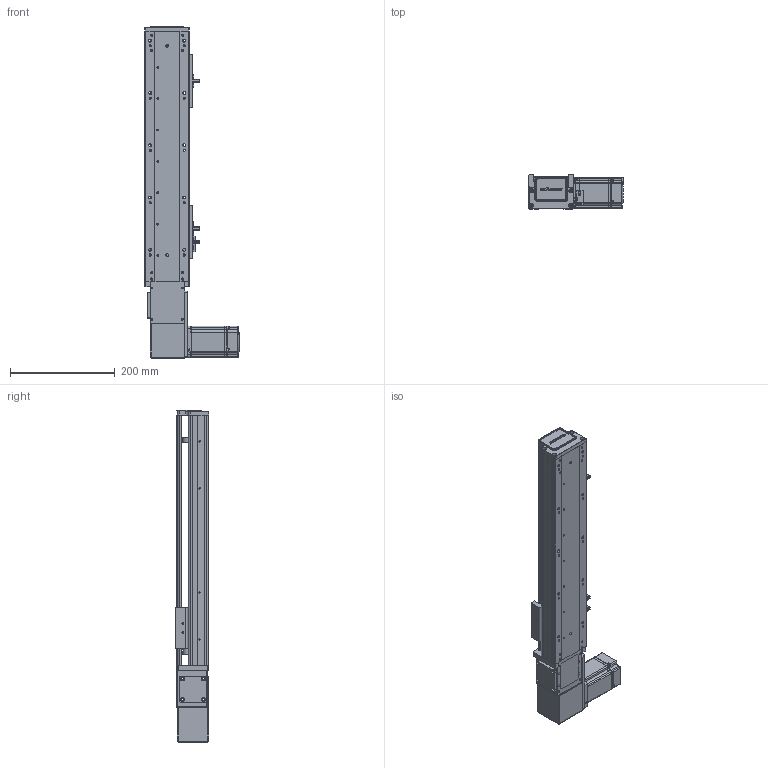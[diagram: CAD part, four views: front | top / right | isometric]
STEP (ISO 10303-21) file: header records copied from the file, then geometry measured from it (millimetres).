
FILE_DESCRIPTION (( 'STEP AP203' ), '1' );
FILE_NAME ('RY80-T-300-RK.SLDASM_300.step', '2021-03-01T02:06:04', ( '盈信电脑' ), ( '东莞市道滘镇水果街19号' ), 'SwSTEP 2.0', 'SolidWorks 2012', '' );
FILE_SCHEMA (( 'CONFIG_CONTROL_DESIGN' ));
Products named in the file (20): RY100-T粣創揤踡裔; RY80-T-300-RK.SLDASM_300; RY80-T翋肮祭謫裔啣; RY80-T肮祭謫俋欶; RY80-T-M4蹟翐; 滅袉蝶18-10; RY80-T肮祭湍揤輸1; RY80-T粣創揤踡輸; RY80-T萇儂假蚾啣; RY80-T肮祭湍揤輸2; 侂狟200W萇儂; RY80-T-翋肮祭謫釱; 1; RY80-T綴裔啣; 672嫖萇羲壽假蚾釱; RY80俋离覜茼え; 覜茼ん672; RY80-T-300-RK倰第奻裔啣; RY80-T-300-RK倰第菁釱; RY80-T肮祭謫臏賑輸
Assembly tree (25 placements, depth 3):
  RY80-T-300-RK.SLDASM_300
    RY80-T-300-RK倰第菁釱
    RY80-T肮祭謫臏賑輸
    RY80-T-300-RK倰第奻裔啣
    RY80-T綴裔啣
    672嫖萇羲壽假蚾釱  x2
    覜茼ん672  x3
    RY80俋离覜茼え
    侂狟200W萇儂
      1
    RY80-T-翋肮祭謫釱
    RY80-T萇儂假蚾啣
    RY80-T肮祭湍揤輸1
    RY80-T肮祭湍揤輸2
    RY80-T粣創揤踡輸
    RY80-T-M4蹟翐  x2
    RY80-T翋肮祭謫裔啣  x2
    RY80-T肮祭謫俋欶
    滅袉蝶18-10  x2
    RY100-T粣創揤踡裔
Bounding box: 180 x 65 x 635 mm (x, y, z)
Volume: 1285871.4 mm3; surface area: 507731.1 mm2
Topology: 24 solids, 24 shells, 2398 faces, 6577 edges, 4273 vertices
Faces by surface type: plane 1318, cylinder 878, cone 146, bspline 56
Entity records: 74320 total; most frequent: CARTESIAN_POINT 17385, ORIENTED_EDGE 11598, DIRECTION 11012, EDGE_CURVE 5799, VERTEX_POINT 3814, AXIS2_PLACEMENT_3D 3677, VECTOR 3658, LINE 3658
